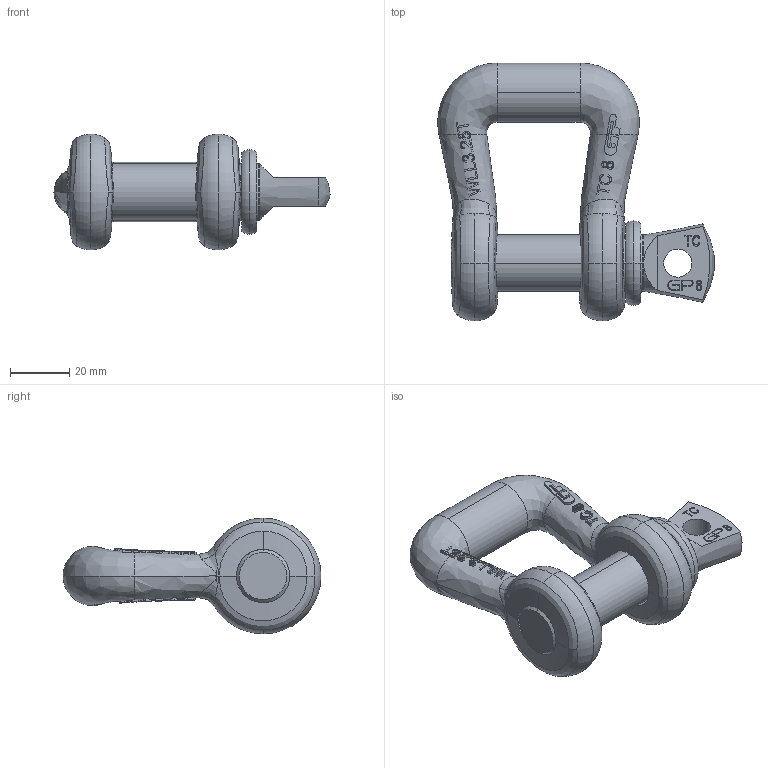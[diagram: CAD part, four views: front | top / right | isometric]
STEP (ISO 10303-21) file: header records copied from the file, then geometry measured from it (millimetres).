
FILE_DESCRIPTION(('STEP AP203'),'1');
FILE_NAME('popwbb16.stp','2023-06-19T05:59:57',('TraceParts'),('TraceParts S.A.'),'Spatial InterOp 3D',' ',' ');
FILE_SCHEMA(('CONFIG_CONTROL_DESIGN'));
Length unit declared in the file: millimetre
Products named in the file (1): 1
Bounding box: 93.22 x 87 x 39 mm (x, y, z)
Volume: 75115.4 mm3; surface area: 20799.9 mm2
Topology: 2 solids, 2 shells, 490 faces, 1300 edges, 850 vertices
Faces by surface type: bspline 211, plane 196, cylinder 59, torus 18, cone 6
Entity records: 28352 total; most frequent: CARTESIAN_POINT 18223, ORIENTED_EDGE 2600, EDGE_CURVE 1300, DIRECTION 1200, VERTEX_POINT 850, B_SPLINE_CURVE_WITH_KNOTS 758, EDGE_LOOP 532, ADVANCED_FACE 490
